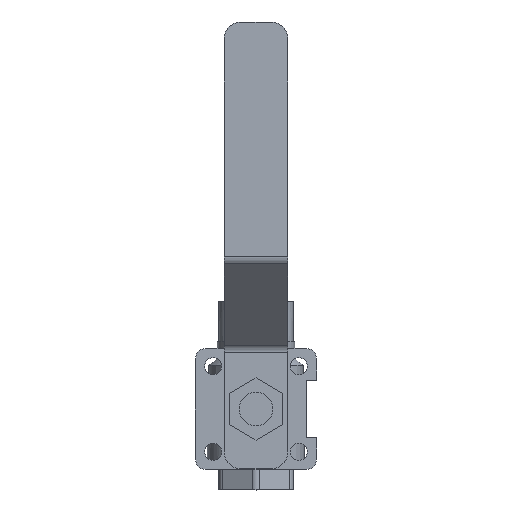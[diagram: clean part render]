
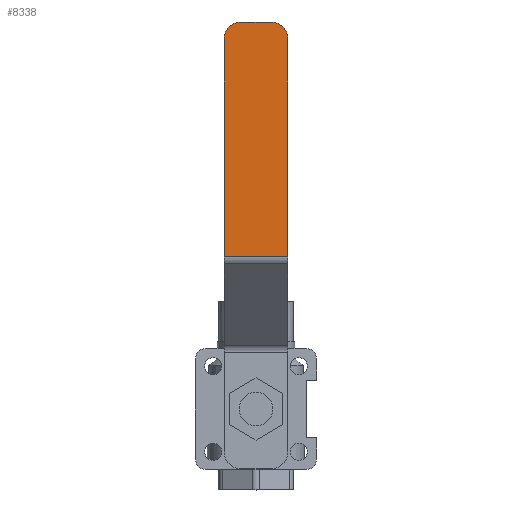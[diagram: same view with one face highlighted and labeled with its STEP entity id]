
A CAD part, top view. The second image highlights one B-rep face of the part: STEP entity #8338.
In plain terms, the highlighted planar face has unit normal (0, 0, 1).
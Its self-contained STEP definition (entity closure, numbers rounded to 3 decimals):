
#8338=ADVANCED_FACE('',(#14985),#14987,.T.);
#14985=FACE_BOUND('',#14986,.T.);
#14986=EDGE_LOOP('',(#20441,#20442,#20443,#20444,#20445,#20446));
#14987=PLANE('',#14988);
#14988=AXIS2_PLACEMENT_3D('',#14989,#14990,#14991);
#14989=CARTESIAN_POINT('',(3046.684,1442.391,-1785.715));
#14990=DIRECTION('',(0.,0.,1.));
#14991=DIRECTION('',(0.,1.,0.));
#20441=ORIENTED_EDGE('',*,*,#23187,.F.);
#20442=ORIENTED_EDGE('',*,*,#23193,.T.);
#20443=ORIENTED_EDGE('',*,*,#23199,.F.);
#20444=ORIENTED_EDGE('',*,*,#23209,.F.);
#20445=ORIENTED_EDGE('',*,*,#23210,.F.);
#20446=ORIENTED_EDGE('',*,*,#23200,.T.);
#23187=EDGE_CURVE('',#27650,#27651,#27652,.T.);
#23193=EDGE_CURVE('',#27650,#27660,#27662,.T.);
#23199=EDGE_CURVE('',#27670,#27660,#27672,.T.);
#23200=EDGE_CURVE('',#27673,#27651,#27674,.T.);
#23209=EDGE_CURVE('',#27689,#27670,#27690,.T.);
#23210=EDGE_CURVE('',#27673,#27689,#27691,.T.);
#27650=VERTEX_POINT('',#37834);
#27651=VERTEX_POINT('',#37835);
#27652=CIRCLE('',#37836,5.);
#27660=VERTEX_POINT('',#37856);
#27662=LINE('',#37860,#37861);
#27670=VERTEX_POINT('',#37879);
#27672=CIRCLE('',#37883,5.);
#27673=VERTEX_POINT('',#37887);
#27674=LINE('',#37888,#37889);
#27689=VERTEX_POINT('',#37925);
#27690=LINE('',#37926,#37927);
#27691=LINE('',#37929,#37930);
#37834=CARTESIAN_POINT('',(3041.684,1512.179,-1785.715));
#37835=CARTESIAN_POINT('',(3046.684,1507.179,-1785.715));
#37836=AXIS2_PLACEMENT_3D('',#37837,#37838,#37839);
#37837=CARTESIAN_POINT('',(3041.684,1507.179,-1785.715));
#37838=DIRECTION('',(0.,0.,-1.));
#37839=DIRECTION('',(0.,1.,0.));
#37856=CARTESIAN_POINT('',(3032.684,1512.179,-1785.715));
#37860=CARTESIAN_POINT('',(3041.684,1512.179,-1785.715));
#37861=VECTOR('',#37862,1.);
#37862=DIRECTION('',(-1.,0.,0.));
#37879=CARTESIAN_POINT('',(3027.684,1507.179,-1785.715));
#37883=AXIS2_PLACEMENT_3D('',#37884,#37885,#37886);
#37884=CARTESIAN_POINT('',(3032.684,1507.179,-1785.715));
#37885=DIRECTION('',(0.,0.,-1.));
#37886=DIRECTION('',(-1.,0.,0.));
#37887=CARTESIAN_POINT('',(3046.684,1442.391,-1785.715));
#37888=CARTESIAN_POINT('',(3046.684,1442.391,-1785.715));
#37889=VECTOR('',#37890,1.);
#37890=DIRECTION('',(0.,1.,0.));
#37925=CARTESIAN_POINT('',(3027.684,1442.391,-1785.715));
#37926=CARTESIAN_POINT('',(3027.684,1442.391,-1785.715));
#37927=VECTOR('',#37928,1.);
#37928=DIRECTION('',(0.,1.,0.));
#37929=CARTESIAN_POINT('',(3046.684,1442.391,-1785.715));
#37930=VECTOR('',#37931,1.);
#37931=DIRECTION('',(-1.,0.,0.));
